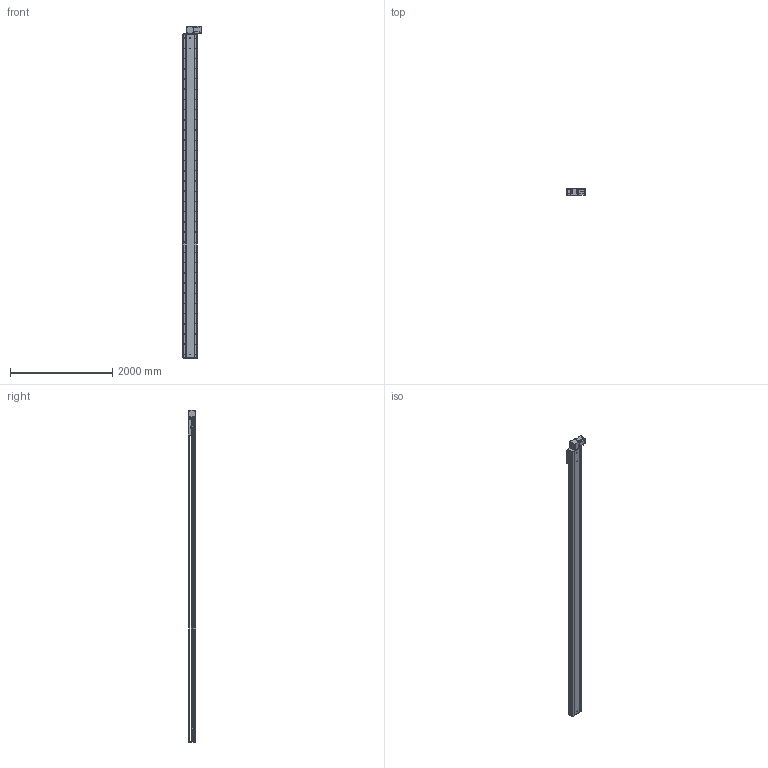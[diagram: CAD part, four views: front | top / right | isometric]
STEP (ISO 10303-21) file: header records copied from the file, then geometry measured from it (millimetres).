
FILE_DESCRIPTION (( 'STEP AP214' ), '1' );
FILE_NAME ('RTB28S-XX-5900-BL-M100-XX-C4.STEP', '2025-12-22T02:59:04', ( '' ), ( '' ), 'SwSTEP 2.0', 'SolidWorks 2018', '' );
FILE_SCHEMA (( 'AUTOMOTIVE_DESIGN' ));
Length unit declared in the file: millimetre
Products named in the file (4): RTB28S-GY-011^RTB28S-XX-XX-BL-M100-XX-C4; RTB28S-XX-5900-BL-M100-XX-C4; RTB28S-GY-004^RTB28S-XX-XX-BL-M100-XX-C4; RTB28S-GY-008^RTB28S-XX-XX-BL-M100-XX-C4
Assembly tree (3 placements, depth 2):
  RTB28S-XX-5900-BL-M100-XX-C4
    RTB28S-GY-011^RTB28S-XX-XX-BL-M100-XX-C4
    RTB28S-GY-004^RTB28S-XX-XX-BL-M100-XX-C4
    RTB28S-GY-008^RTB28S-XX-XX-BL-M100-XX-C4
Bounding box: 380.7 x 145 x 6507 mm (x, y, z)
Volume: 106786430.6 mm3; surface area: 9823290.2 mm2
Topology: 3 solids, 4 shells, 1028 faces, 2808 edges, 1808 vertices
Faces by surface type: cylinder 551, plane 393, cone 80, torus 4
Entity records: 41177 total; most frequent: CARTESIAN_POINT 8602, DIRECTION 6006, ORIENTED_EDGE 5552, EDGE_CURVE 2776, AXIS2_PLACEMENT_3D 2268, VERTEX_POINT 1808, LINE 1470, VECTOR 1470
